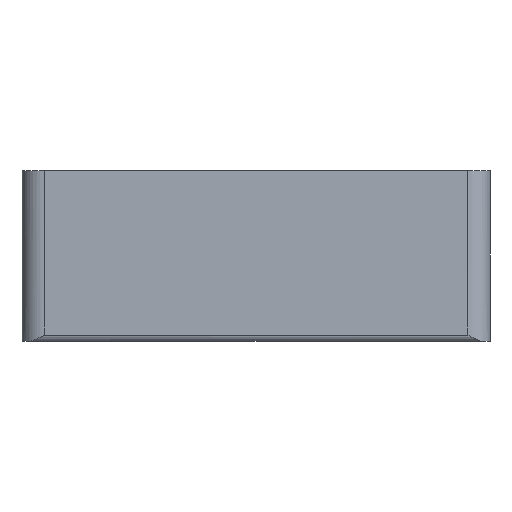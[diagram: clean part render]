
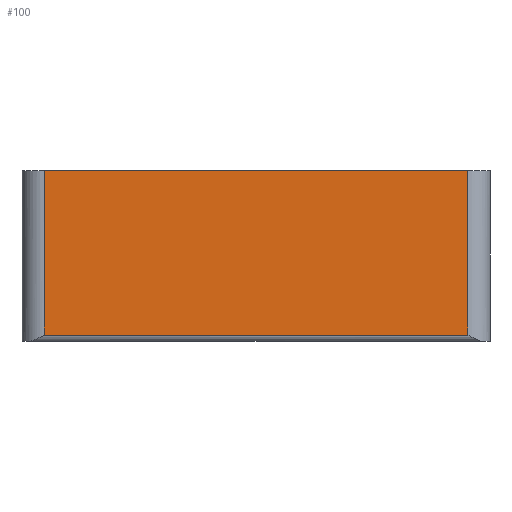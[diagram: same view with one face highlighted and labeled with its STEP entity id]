
A CAD part, top view. The second image highlights one B-rep face of the part: STEP entity #100.
In plain terms, the highlighted planar face has unit normal (0, 0, 1).
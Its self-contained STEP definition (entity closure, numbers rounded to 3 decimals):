
#100 = ADVANCED_FACE( '', ( #156 ), #157, .T. );
#156 = FACE_OUTER_BOUND( '', #219, .T. );
#157 = PLANE( '', #220 );
#219 = EDGE_LOOP( '', ( #412, #413, #414, #415 ) );
#220 = AXIS2_PLACEMENT_3D( '', #416, #417, #418 );
#412 = ORIENTED_EDGE( '', *, *, #503, .T. );
#413 = ORIENTED_EDGE( '', *, *, #512, .F. );
#414 = ORIENTED_EDGE( '', *, *, #513, .F. );
#415 = ORIENTED_EDGE( '', *, *, #510, .T. );
#416 = CARTESIAN_POINT( '', ( -1.5, 0., 3.5 ) );
#417 = DIRECTION( '', ( 0., 0., 1. ) );
#418 = DIRECTION( '', ( -1., 0., 0. ) );
#503 = EDGE_CURVE( '', #607, #604, #608, .T. );
#510 = EDGE_CURVE( '', #618, #607, #619, .T. );
#512 = EDGE_CURVE( '', #621, #604, #622, .T. );
#513 = EDGE_CURVE( '', #618, #621, #623, .T. );
#604 = VERTEX_POINT( '', #758 );
#607 = VERTEX_POINT( '', #770 );
#608 = LINE( '', #771, #772 );
#618 = VERTEX_POINT( '', #795 );
#619 = LINE( '', #796, #797 );
#621 = VERTEX_POINT( '', #799 );
#622 = LINE( '', #800, #801 );
#623 = LINE( '', #802, #803 );
#758 = CARTESIAN_POINT( '', ( 65.5, -26., 3.5 ) );
#770 = CARTESIAN_POINT( '', ( -1.5, -26., 3.5 ) );
#771 = CARTESIAN_POINT( '', ( 32., -26., 3.5 ) );
#772 = VECTOR( '', #904, 1. );
#795 = CARTESIAN_POINT( '', ( -1.5, 0., 3.5 ) );
#796 = CARTESIAN_POINT( '', ( -1.5, 0., 3.5 ) );
#797 = VECTOR( '', #912, 1. );
#799 = CARTESIAN_POINT( '', ( 65.5, 0., 3.5 ) );
#800 = CARTESIAN_POINT( '', ( 65.5, 0., 3.5 ) );
#801 = VECTOR( '', #916, 1. );
#802 = CARTESIAN_POINT( '', ( -1.5, 0., 3.5 ) );
#803 = VECTOR( '', #917, 1. );
#904 = DIRECTION( '', ( 1., 0., 0. ) );
#912 = DIRECTION( '', ( 0., -1., 0. ) );
#916 = DIRECTION( '', ( 0., -1., 0. ) );
#917 = DIRECTION( '', ( 1., 0., 0. ) );
